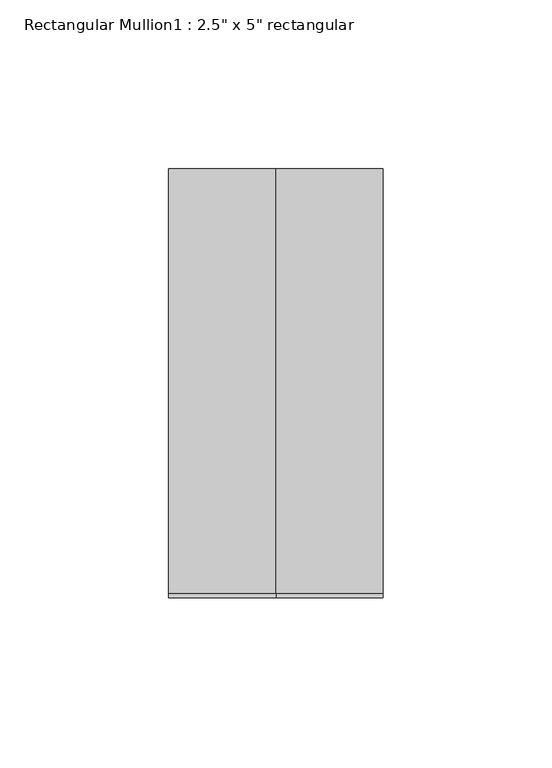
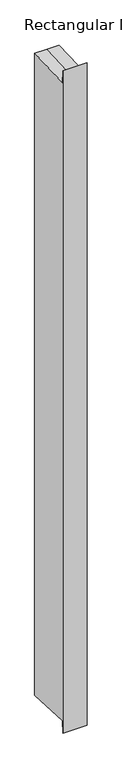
"""IFC4 building model written with IfcOpenShell, lengths in millimetres: member geometry."""

from ifc_helpers import new_model, si_unit, origin, place, context, project, spatial, faceted_brep, source, transform, mapped, element, save


def member_079229cb(model_context):
    return source(origin(), model_context, "Body", "Brep", [
        faceted_brep([(-31.75, 63.5, 2.5257955), (0.0, 63.5, 2.5257955), (31.75, 63.5, 2.5257955), (31.75, 63.5, -1767.8257955), (0.0, 63.5, -1767.8257955), (-31.75, 63.5, -1767.8257955), (-31.75, -63.5, 30.4748075), (-31.75, -62.174126, -2.5237591), (-31.75, -62.174126, -1762.7762409), (-31.75, -63.5, -1795.7748075), (31.75, -63.5, 30.4748075), (0.0, -63.5, 30.4748075), (0.0, -63.5, -1795.7748075), (31.75, -63.5, -1795.7748075), (31.75, -62.174126, -2.5237591), (31.75, -62.174126, -1762.7762409), (0.0, -62.174126, -2.5237591), (0.0, -62.174126, -1762.7762409)], [[[0, 1, 2, 3, 4, 5]], [[6, 7, 0, 5, 8, 9]], [[10, 11, 6, 9, 12, 13]], [[2, 14, 10, 13, 15, 3]], [[2, 1, 16, 14]], [[1, 0, 7, 16]], [[7, 6, 11, 16]], [[11, 10, 14, 16]], [[3, 15, 17, 4]], [[15, 13, 12, 17]], [[12, 9, 8, 17]], [[8, 5, 4, 17]]]),
    ])


if __name__ == "__main__":
    model = new_model("IFC4")
    model_context = context("Model", 3, world=origin())
    ifc_project = project(units=[si_unit("LENGTHUNIT", "METRE", prefix="MILLI")], contexts=[model_context])
    site = spatial("IfcSite", under=ifc_project)
    building = spatial("IfcBuilding", under=site)
    placement = place(None, origin())
    member_shape = member_079229cb(model_context)
    element("IfcMember", 1, ObjectType="Rectangular Mullion1 : 2.5\" x 5\" rectangular", at=placement, inside=building, context=model_context, shape_type="MappedRepresentation", body=[
        mapped(member_shape, transform((0.0, 0.0, 0.0), x_axis=(1.0, 0.0, 0.0), y_axis=(0.0, 1.0, 0.0), z_axis=(0.0, 0.0, 1.0))),
    ])
    save(model, "model.ifc")
